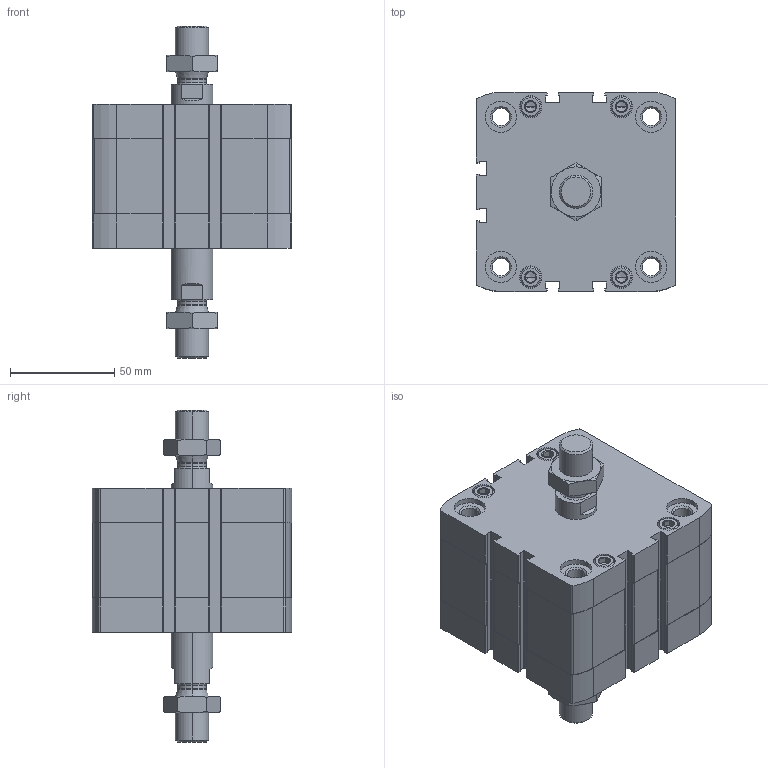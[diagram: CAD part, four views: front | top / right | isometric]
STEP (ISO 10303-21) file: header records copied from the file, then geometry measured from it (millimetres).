
FILE_DESCRIPTION (( 'STEP AP203' ), '1' );
FILE_NAME ('CCN80-15-P.STEP', '2020-06-22T19:05:26', ( '' ), ( '' ), 'SwSTEP 2.0', 'SolidWorks 2019', '' );
FILE_SCHEMA (( 'CONFIG_CONTROL_DESIGN' ));
Length unit declared in the file: millimetre
Products named in the file (1): CCN80-15-P
Bounding box: 95.5 x 95.5 x 159.2 mm (x, y, z)
Volume: 543646.5 mm3; surface area: 106055.6 mm2
Topology: 4 solids, 4 shells, 544 faces, 1352 edges, 848 vertices
Faces by surface type: plane 248, cylinder 196, cone 92, torus 8
Entity records: 17807 total; most frequent: CARTESIAN_POINT 4577, DIRECTION 2866, ORIENTED_EDGE 2672, EDGE_CURVE 1336, AXIS2_PLACEMENT_3D 1077, VERTEX_POINT 848, LINE 712, VECTOR 712
